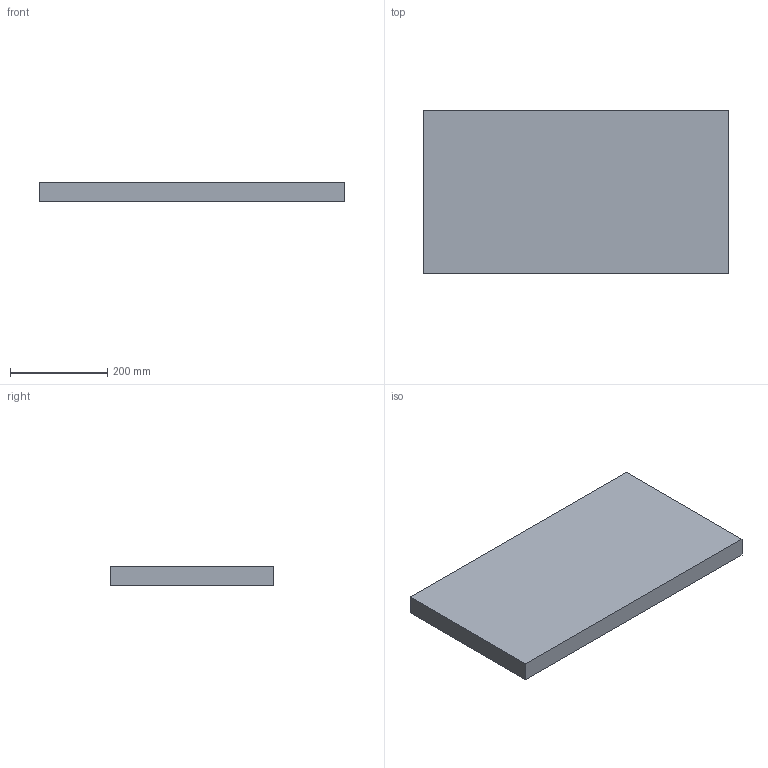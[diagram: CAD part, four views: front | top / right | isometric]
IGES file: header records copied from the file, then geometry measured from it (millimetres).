
Start section: Data from Parasolid IGES Translator 19.0.9, Copyright(c) 2006 Siemens PL M Software. All Rights Reserved.
Global section: file name: noorth-SI-H 4 D 33,8 W mtl-9_2505.igs; native system: By Siemens PLM Incorporated; preprocessor: XPlus GENERIC/IGES 19.0.9; author: Noname; organization: Noname; date: 20200601.142918; units: metre
Bounding box: 630 x 338 x 40 mm (x, y, z)
Volume: 8517600 mm3; surface area: 503320 mm2
Topology: 1 solids, 1 shells, 6 faces, 12 edges, 8 vertices
Faces by surface type: plane 6
